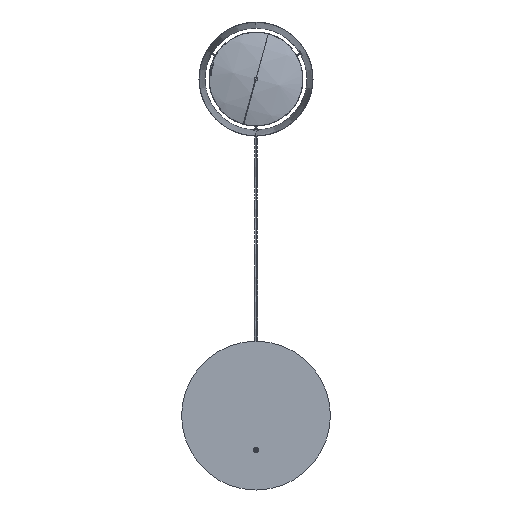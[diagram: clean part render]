
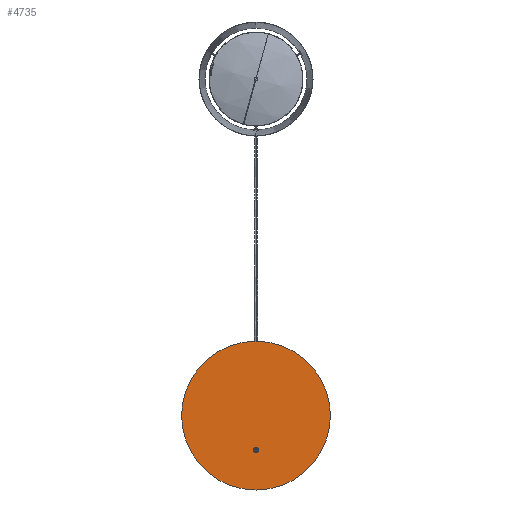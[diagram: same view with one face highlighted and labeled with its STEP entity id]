
A CAD part, front view. The second image highlights one B-rep face of the part: STEP entity #4735.
In plain terms, the highlighted planar face has unit normal (0, -1, 0).
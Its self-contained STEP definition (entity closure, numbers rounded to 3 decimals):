
#88 = DIRECTION ( 'NONE',  ( 0., 0., 1. ) ) ;
#725 = CARTESIAN_POINT ( 'NONE',  ( 0., -497.261, -326.823 ) ) ;
#922 = CARTESIAN_POINT ( 'NONE',  ( 0., -497.261, 273.177 ) ) ;
#1017 = DIRECTION ( 'NONE',  ( 0., 1., 0. ) ) ;
#1075 = EDGE_CURVE ( 'NONE', #10146, #12192, #7814, .T. ) ;
#1080 = AXIS2_PLACEMENT_3D ( 'NONE', #8465, #3838, #12376 ) ;
#1419 = CARTESIAN_POINT ( 'NONE',  ( -1.672, -497.261, -157.725 ) ) ;
#1502 = CIRCLE ( 'NONE', #6293, 2. ) ;
#1698 = CARTESIAN_POINT ( 'NONE',  ( 0., -497.261, -158.823 ) ) ;
#1846 = PLANE ( 'NONE',  #8022 ) ;
#1914 = DIRECTION ( 'NONE',  ( 0., 0., 1. ) ) ;
#2463 = DIRECTION ( 'NONE',  ( 0., 0., 1. ) ) ;
#2667 = EDGE_CURVE ( 'NONE', #10489, #10146, #1502, .T. ) ;
#2723 = DIRECTION ( 'NONE',  ( 0., 1., 0. ) ) ;
#2919 = CARTESIAN_POINT ( 'NONE',  ( 0., -497.261, -166.823 ) ) ;
#3155 = AXIS2_PLACEMENT_3D ( 'NONE', #2919, #10570, #9376 ) ;
#3160 = CARTESIAN_POINT ( 'NONE',  ( 0., -497.261, -166.823 ) ) ;
#3558 = EDGE_LOOP ( 'NONE', ( #11825, #8674 ) ) ;
#3663 = EDGE_CURVE ( 'NONE', #3989, #10779, #6459, .T. ) ;
#3838 = DIRECTION ( 'NONE',  ( 0., 1., 0. ) ) ;
#3921 = DIRECTION ( 'NONE',  ( 0., 1., 0. ) ) ;
#3989 = VERTEX_POINT ( 'NONE', #725 ) ;
#4466 = DIRECTION ( 'NONE',  ( 0., 0., 1. ) ) ;
#4662 = CARTESIAN_POINT ( 'NONE',  ( 0., -497.261, -26.823 ) ) ;
#4664 = FACE_BOUND ( 'NONE', #9159, .T. ) ;
#4735 = ADVANCED_FACE ( 'NONE', ( #4664, #8481 ), #1846, .F. ) ;
#6124 = ORIENTED_EDGE ( 'NONE', *, *, #1075, .T. ) ;
#6293 = AXIS2_PLACEMENT_3D ( 'NONE', #1698, #2723, #2463 ) ;
#6459 = CIRCLE ( 'NONE', #1080, 300. ) ;
#6848 = AXIS2_PLACEMENT_3D ( 'NONE', #4662, #10248, #4466 ) ;
#7814 = CIRCLE ( 'NONE', #10026, 9.25 ) ;
#8022 = AXIS2_PLACEMENT_3D ( 'NONE', #10516, #3921, #1914 ) ;
#8465 = CARTESIAN_POINT ( 'NONE',  ( 0., -497.261, -26.823 ) ) ;
#8481 = FACE_OUTER_BOUND ( 'NONE', #3558, .T. ) ;
#8674 = ORIENTED_EDGE ( 'NONE', *, *, #12021, .F. ) ;
#9159 = EDGE_LOOP ( 'NONE', ( #6124, #11733, #12274 ) ) ;
#9376 = DIRECTION ( 'NONE',  ( 0., 0., 1. ) ) ;
#9676 = CARTESIAN_POINT ( 'NONE',  ( 0., -497.261, -176.073 ) ) ;
#10026 = AXIS2_PLACEMENT_3D ( 'NONE', #3160, #1017, #88 ) ;
#10146 = VERTEX_POINT ( 'NONE', #12165 ) ;
#10248 = DIRECTION ( 'NONE',  ( 0., 1., 0. ) ) ;
#10489 = VERTEX_POINT ( 'NONE', #1419 ) ;
#10516 = CARTESIAN_POINT ( 'NONE',  ( 0., -497.261, -26.823 ) ) ;
#10570 = DIRECTION ( 'NONE',  ( 0., 1., 0. ) ) ;
#10779 = VERTEX_POINT ( 'NONE', #922 ) ;
#11178 = EDGE_CURVE ( 'NONE', #12192, #10489, #12366, .T. ) ;
#11733 = ORIENTED_EDGE ( 'NONE', *, *, #11178, .T. ) ;
#11825 = ORIENTED_EDGE ( 'NONE', *, *, #3663, .F. ) ;
#11861 = CIRCLE ( 'NONE', #6848, 300. ) ;
#12021 = EDGE_CURVE ( 'NONE', #10779, #3989, #11861, .T. ) ;
#12165 = CARTESIAN_POINT ( 'NONE',  ( 1.672, -497.261, -157.725 ) ) ;
#12192 = VERTEX_POINT ( 'NONE', #9676 ) ;
#12274 = ORIENTED_EDGE ( 'NONE', *, *, #2667, .T. ) ;
#12366 = CIRCLE ( 'NONE', #3155, 9.25 ) ;
#12376 = DIRECTION ( 'NONE',  ( 0., 0., 1. ) ) ;
